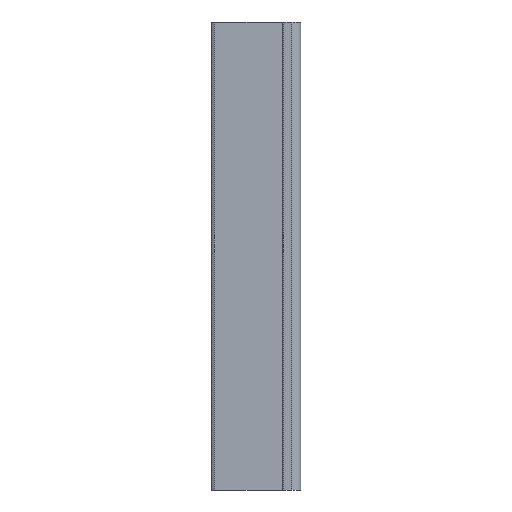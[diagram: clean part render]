
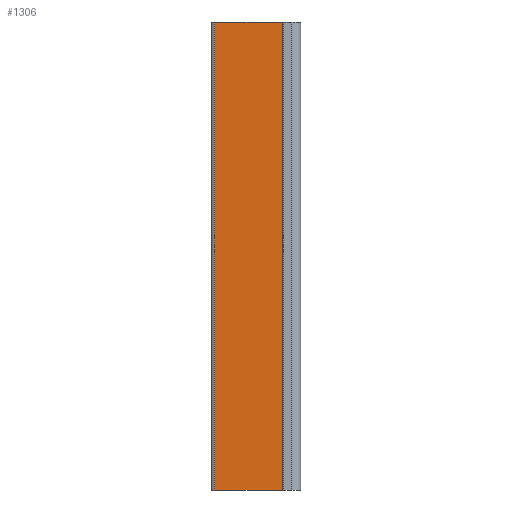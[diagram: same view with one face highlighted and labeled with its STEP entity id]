
A CAD part, front view. The second image highlights one B-rep face of the part: STEP entity #1306.
In plain terms, the highlighted planar face has unit normal (0, -1, 0).
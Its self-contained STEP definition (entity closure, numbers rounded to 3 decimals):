
#7 = CARTESIAN_POINT ( 'NONE',  ( 105.476, 119.262, 0. ) ) ;
#12 = ORIENTED_EDGE ( 'NONE', *, *, #1867, .T. ) ;
#100 = ORIENTED_EDGE ( 'NONE', *, *, #2061, .T. ) ;
#127 = VERTEX_POINT ( 'NONE', #668 ) ;
#180 = DIRECTION ( 'NONE',  ( 1., 0., 0. ) ) ;
#203 = DIRECTION ( 'NONE',  ( 1., 0., 0. ) ) ;
#231 = PLANE ( 'NONE',  #1428 ) ;
#250 = EDGE_CURVE ( 'NONE', #599, #1633, #918, .T. ) ;
#322 = DIRECTION ( 'NONE',  ( 0., 0., -1. ) ) ;
#370 = CARTESIAN_POINT ( 'NONE',  ( 105.476, 119.262, 0. ) ) ;
#395 = CARTESIAN_POINT ( 'NONE',  ( 105.476, 119.262, 100. ) ) ;
#599 = VERTEX_POINT ( 'NONE', #1750 ) ;
#633 = VECTOR ( 'NONE', #203, 1000. ) ;
#668 = CARTESIAN_POINT ( 'NONE',  ( 91.076, 119.262, 0. ) ) ;
#918 = LINE ( 'NONE', #1288, #2145 ) ;
#972 = DIRECTION ( 'NONE',  ( 0., 1., 0. ) ) ;
#1083 = ORIENTED_EDGE ( 'NONE', *, *, #1178, .F. ) ;
#1098 = VECTOR ( 'NONE', #322, 1000. ) ;
#1178 = EDGE_CURVE ( 'NONE', #1633, #2046, #2337, .T. ) ;
#1207 = ORIENTED_EDGE ( 'NONE', *, *, #250, .F. ) ;
#1242 = FACE_OUTER_BOUND ( 'NONE', #1406, .T. ) ;
#1288 = CARTESIAN_POINT ( 'NONE',  ( 105.476, 119.262, 100. ) ) ;
#1306 = ADVANCED_FACE ( 'NONE', ( #1242 ), #231, .F. ) ;
#1406 = EDGE_LOOP ( 'NONE', ( #100, #1083, #1207, #12 ) ) ;
#1428 = AXIS2_PLACEMENT_3D ( 'NONE', #1523, #972, #2243 ) ;
#1432 = CARTESIAN_POINT ( 'NONE',  ( 91.076, 119.262, 100. ) ) ;
#1479 = CARTESIAN_POINT ( 'NONE',  ( 105.476, 119.262, 100. ) ) ;
#1523 = CARTESIAN_POINT ( 'NONE',  ( 105.476, 119.262, 100. ) ) ;
#1612 = LINE ( 'NONE', #370, #633 ) ;
#1633 = VERTEX_POINT ( 'NONE', #395 ) ;
#1750 = CARTESIAN_POINT ( 'NONE',  ( 91.076, 119.262, 100. ) ) ;
#1836 = DIRECTION ( 'NONE',  ( 0., 0., -1. ) ) ;
#1867 = EDGE_CURVE ( 'NONE', #599, #127, #1992, .T. ) ;
#1992 = LINE ( 'NONE', #1432, #1098 ) ;
#2046 = VERTEX_POINT ( 'NONE', #7 ) ;
#2061 = EDGE_CURVE ( 'NONE', #127, #2046, #1612, .T. ) ;
#2145 = VECTOR ( 'NONE', #180, 1000. ) ;
#2165 = VECTOR ( 'NONE', #1836, 1000. ) ;
#2243 = DIRECTION ( 'NONE',  ( -1., 0., 0. ) ) ;
#2337 = LINE ( 'NONE', #1479, #2165 ) ;
